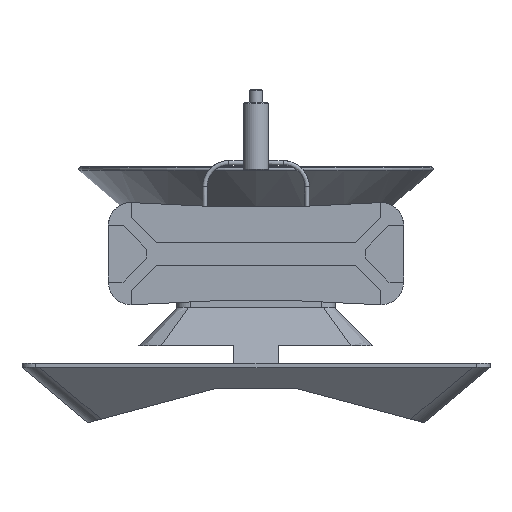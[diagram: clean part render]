
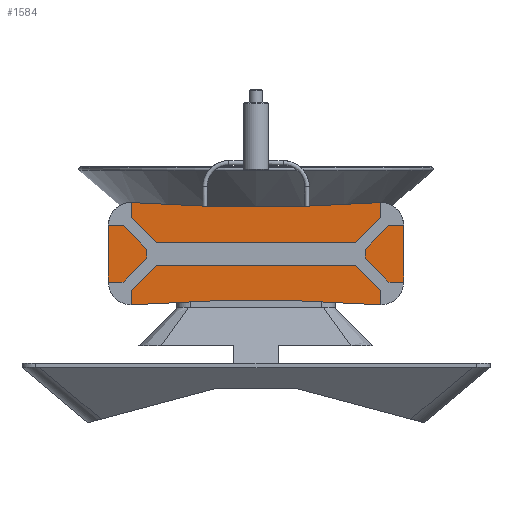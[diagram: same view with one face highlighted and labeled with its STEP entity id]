
A CAD part, left-side view. The second image highlights one B-rep face of the part: STEP entity #1584.
In plain terms, the highlighted planar face has unit normal (-1, 0, 0).
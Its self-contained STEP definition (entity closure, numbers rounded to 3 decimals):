
#643=LINE('',#8546,#1205);
#644=LINE('',#8548,#1206);
#645=LINE('',#8550,#1207);
#646=LINE('',#8552,#1208);
#647=LINE('',#8554,#1209);
#648=LINE('',#8555,#1210);
#649=LINE('',#8557,#1211);
#650=LINE('',#8559,#1212);
#651=LINE('',#8561,#1213);
#652=LINE('',#8563,#1214);
#1205=VECTOR('',#6578,1.);
#1206=VECTOR('',#6579,1.);
#1207=VECTOR('',#6580,1.);
#1208=VECTOR('',#6581,1.);
#1209=VECTOR('',#6582,1.);
#1210=VECTOR('',#6583,1.);
#1211=VECTOR('',#6584,1.);
#1212=VECTOR('',#6585,1.);
#1213=VECTOR('',#6586,1.);
#1214=VECTOR('',#6587,1.);
#1584=ADVANCED_FACE('',(#2032),#1835,.F.);
#1835=PLANE('',#5725);
#2032=FACE_OUTER_BOUND('',#2304,.T.);
#2304=EDGE_LOOP('',(#3210,#3211,#3212,#3213,#3214,#3215,#3216,#3217,#3218,
#3219,#3220,#3221));
#3210=ORIENTED_EDGE('',*,*,#5053,.T.);
#3211=ORIENTED_EDGE('',*,*,#5054,.F.);
#3212=ORIENTED_EDGE('',*,*,#5055,.F.);
#3213=ORIENTED_EDGE('',*,*,#5056,.T.);
#3214=ORIENTED_EDGE('',*,*,#5057,.F.);
#3215=ORIENTED_EDGE('',*,*,#5058,.F.);
#3216=ORIENTED_EDGE('',*,*,#4744,.T.);
#3217=ORIENTED_EDGE('',*,*,#5059,.F.);
#3218=ORIENTED_EDGE('',*,*,#5060,.F.);
#3219=ORIENTED_EDGE('',*,*,#5061,.T.);
#3220=ORIENTED_EDGE('',*,*,#5062,.T.);
#3221=ORIENTED_EDGE('',*,*,#5063,.T.);
#4222=VERTEX_POINT('',#7820);
#4223=VERTEX_POINT('',#7822);
#4433=VERTEX_POINT('',#8544);
#4434=VERTEX_POINT('',#8545);
#4435=VERTEX_POINT('',#8547);
#4436=VERTEX_POINT('',#8549);
#4437=VERTEX_POINT('',#8551);
#4438=VERTEX_POINT('',#8553);
#4439=VERTEX_POINT('',#8556);
#4440=VERTEX_POINT('',#8558);
#4441=VERTEX_POINT('',#8560);
#4442=VERTEX_POINT('',#8562);
#4744=EDGE_CURVE('',#4223,#4222,#5472,.T.);
#5053=EDGE_CURVE('',#4433,#4434,#5518,.T.);
#5054=EDGE_CURVE('',#4435,#4434,#643,.T.);
#5055=EDGE_CURVE('',#4436,#4435,#644,.T.);
#5056=EDGE_CURVE('',#4436,#4437,#645,.T.);
#5057=EDGE_CURVE('',#4438,#4437,#646,.T.);
#5058=EDGE_CURVE('',#4223,#4438,#647,.T.);
#5059=EDGE_CURVE('',#4439,#4222,#648,.T.);
#5060=EDGE_CURVE('',#4440,#4439,#649,.T.);
#5061=EDGE_CURVE('',#4440,#4441,#650,.T.);
#5062=EDGE_CURVE('',#4441,#4442,#651,.T.);
#5063=EDGE_CURVE('',#4442,#4433,#652,.T.);
#5472=CIRCLE('',#5584,757.25);
#5518=CIRCLE('',#5724,757.25);
#5584=AXIS2_PLACEMENT_3D('',#7821,#6046,#6047);
#5724=AXIS2_PLACEMENT_3D('',#8543,#6576,#6577);
#5725=AXIS2_PLACEMENT_3D('',#8564,#6588,#6589);
#6046=DIRECTION('',(1.,0.,0.));
#6047=DIRECTION('',(0.,1.,0.));
#6576=DIRECTION('',(1.,0.,0.));
#6577=DIRECTION('',(0.,1.,0.));
#6578=DIRECTION('',(0.,0.,-1.));
#6579=DIRECTION('',(0.,1.,0.));
#6580=DIRECTION('',(0.,0.,1.));
#6581=DIRECTION('',(0.,-1.,0.));
#6582=DIRECTION('',(0.,0.,-1.));
#6583=DIRECTION('',(0.,0.,1.));
#6584=DIRECTION('',(0.,-1.,0.));
#6585=DIRECTION('',(0.,0.,-1.));
#6586=DIRECTION('',(0.,-1.,0.));
#6587=DIRECTION('',(0.,0.,-1.));
#6588=DIRECTION('',(1.,0.,0.));
#6589=DIRECTION('',(0.,0.,1.));
#7820=CARTESIAN_POINT('',(-345.5,55.,35.15));
#7821=CARTESIAN_POINT('',(-345.5,0.,790.4));
#7822=CARTESIAN_POINT('',(-345.5,-55.,35.15));
#8543=CARTESIAN_POINT('',(-345.5,0.,-765.1));
#8544=CARTESIAN_POINT('',(-345.5,55.,-9.85));
#8545=CARTESIAN_POINT('',(-345.5,-55.,-9.85));
#8546=CARTESIAN_POINT('',(-345.5,-55.,-765.1));
#8547=CARTESIAN_POINT('',(-345.5,-55.,0.15));
#8548=CARTESIAN_POINT('',(-345.5,0.,0.15));
#8549=CARTESIAN_POINT('',(-345.5,-65.,0.15));
#8550=CARTESIAN_POINT('',(-345.5,-65.,25.15));
#8551=CARTESIAN_POINT('',(-345.5,-65.,25.15));
#8552=CARTESIAN_POINT('',(-345.5,0.,25.15));
#8553=CARTESIAN_POINT('',(-345.5,-55.,25.15));
#8554=CARTESIAN_POINT('',(-345.5,-55.,-765.1));
#8555=CARTESIAN_POINT('',(-345.5,55.,-765.1));
#8556=CARTESIAN_POINT('',(-345.5,55.,25.15));
#8557=CARTESIAN_POINT('',(-345.5,0.,25.15));
#8558=CARTESIAN_POINT('',(-345.5,65.,25.15));
#8559=CARTESIAN_POINT('',(-345.5,65.,-9.85));
#8560=CARTESIAN_POINT('',(-345.5,65.,0.15));
#8561=CARTESIAN_POINT('',(-345.5,0.,0.15));
#8562=CARTESIAN_POINT('',(-345.5,55.,0.15));
#8563=CARTESIAN_POINT('',(-345.5,55.,-765.1));
#8564=CARTESIAN_POINT('',(-345.5,0.,-765.1));
